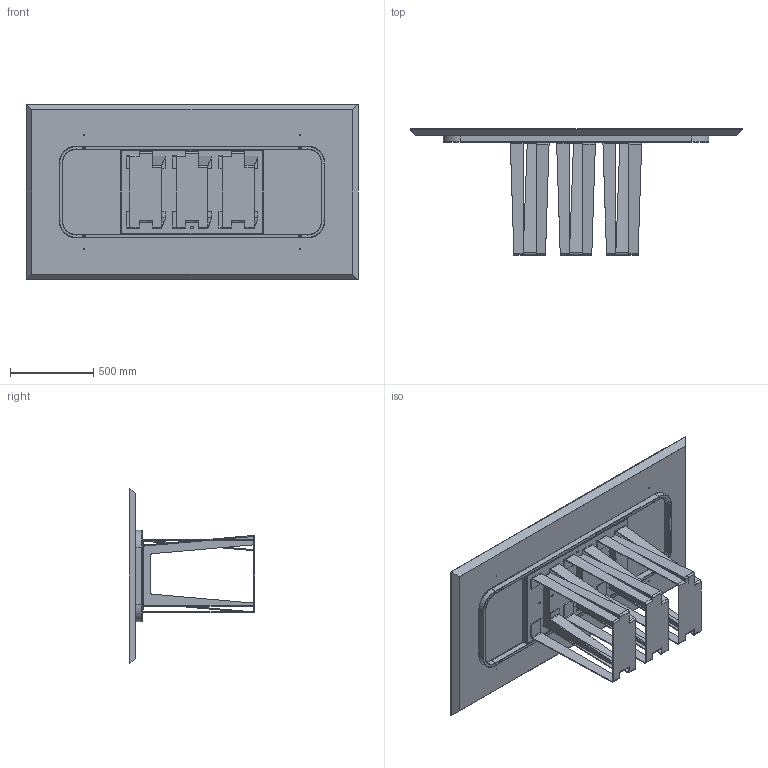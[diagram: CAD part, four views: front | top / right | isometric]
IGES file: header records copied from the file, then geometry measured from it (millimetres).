
Start section: SolidWorks IGES file using analytic representation for surfaces
Global section: file name: Y:\eforma\TECNICO\SOLIDWORKS\E-FORMA\1-TAVOLI\NARCISO\02 parts\NA21W.IGS; native system: SolidWorks 2022; preprocessor: SolidWorks 2022; author: eforma.tech; date: 240807.163957; units: millimetre
Bounding box: 2000 x 758 x 1060 mm (x, y, z)
Volume: 88440685.7 mm3; surface area: 9261865.4 mm2
Topology: 26 solids, 26 shells, 1143 faces, 2805 edges, 1689 vertices
Faces by surface type: plane 585, revolution 522, bspline 36
